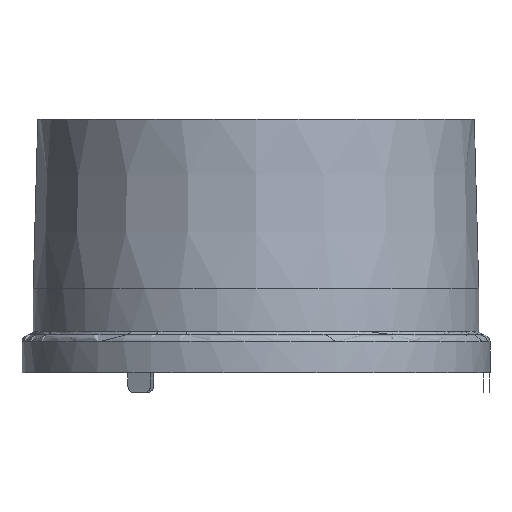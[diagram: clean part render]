
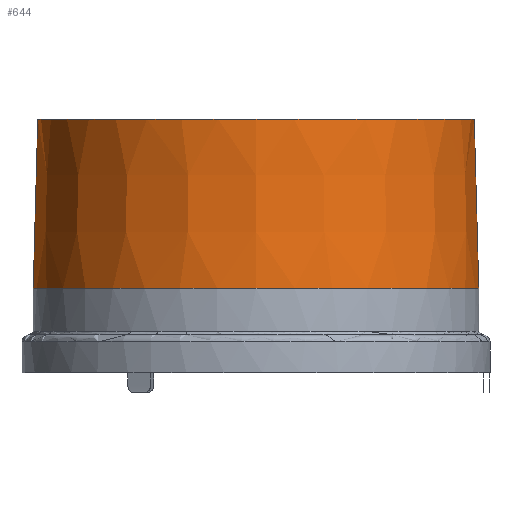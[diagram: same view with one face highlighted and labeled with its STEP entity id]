
A CAD part, left-side view. The second image highlights one B-rep face of the part: STEP entity #644.
In plain terms, the highlighted conical face has half-angle 1.53 degrees and reference radius 28.973 mm.
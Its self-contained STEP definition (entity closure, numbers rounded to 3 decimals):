
#25=CONICAL_SURFACE('',#684,28.973,0.027);
#31=CIRCLE('',#681,29.512);
#33=CIRCLE('',#685,28.913);
#67=FACE_OUTER_BOUND('',#99,.T.);
#99=EDGE_LOOP('',(#510,#511,#512,#513));
#133=LINE('',#1542,#168);
#134=LINE('',#1544,#169);
#168=VECTOR('',#773,304.8);
#169=VECTOR('',#774,304.8);
#297=VERTEX_POINT('',#1533);
#298=VERTEX_POINT('',#1535);
#299=VERTEX_POINT('',#1541);
#300=VERTEX_POINT('',#1543);
#379=EDGE_CURVE('',#297,#298,#31,.T.);
#381=EDGE_CURVE('',#297,#299,#133,.T.);
#382=EDGE_CURVE('',#300,#298,#134,.T.);
#383=EDGE_CURVE('',#299,#300,#33,.T.);
#510=ORIENTED_EDGE('',*,*,#381,.F.);
#511=ORIENTED_EDGE('',*,*,#379,.T.);
#512=ORIENTED_EDGE('',*,*,#382,.F.);
#513=ORIENTED_EDGE('',*,*,#383,.F.);
#644=ADVANCED_FACE('',(#67),#25,.T.);
#681=AXIS2_PLACEMENT_3D('',#1537,#765,#766);
#684=AXIS2_PLACEMENT_3D('',#1540,#771,#772);
#685=AXIS2_PLACEMENT_3D('',#1545,#775,#776);
#765=DIRECTION('center_axis',(0.,0.,1.));
#766=DIRECTION('ref_axis',(0.,1.,0.));
#771=DIRECTION('center_axis',(0.,0.,
-1.));
#772=DIRECTION('ref_axis',(1.,0.,0.));
#773=DIRECTION('',(0.,0.027,1.));
#774=DIRECTION('',(0.,0.027,-1.));
#775=DIRECTION('center_axis',(0.,0.,1.));
#776=DIRECTION('ref_axis',(-0.588,0.809,0.));
#1533=CARTESIAN_POINT('',(0.,-29.512,10.87));
#1535=CARTESIAN_POINT('',(0.,29.512,10.87));
#1537=CARTESIAN_POINT('Origin',(0.,0.,10.87));
#1540=CARTESIAN_POINT('Origin',(0.,0.,31.044));
#1541=CARTESIAN_POINT('',(0.,-28.913,33.286));
#1542=CARTESIAN_POINT('',(0.,-29.512,10.87));
#1543=CARTESIAN_POINT('',(0.,28.913,33.286));
#1544=CARTESIAN_POINT('',(0.,28.913,33.286));
#1545=CARTESIAN_POINT('Origin',(0.,0.,
33.286));
